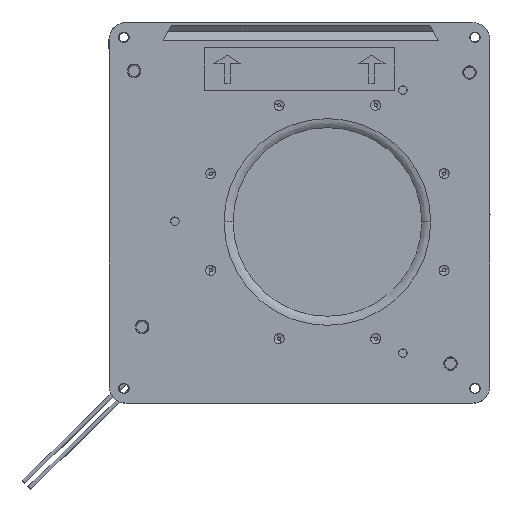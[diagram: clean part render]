
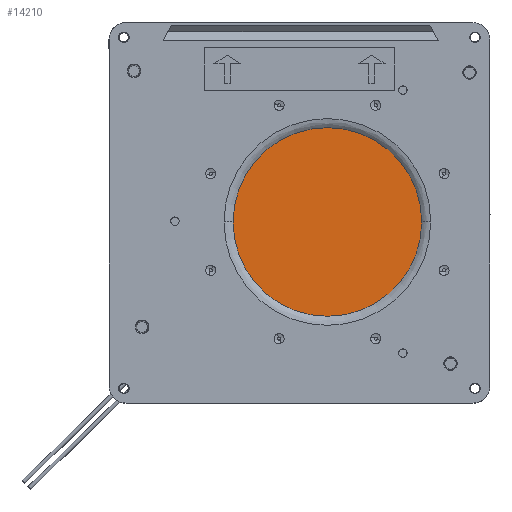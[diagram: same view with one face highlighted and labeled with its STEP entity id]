
A CAD part, top view. The second image highlights one B-rep face of the part: STEP entity #14210.
In plain terms, the highlighted planar face has unit normal (0, 0, 1).
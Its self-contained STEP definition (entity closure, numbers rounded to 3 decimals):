
#6213=CARTESIAN_POINT('',(13.161,-332.658,0.));
#6214=DIRECTION('',(0.,0.,1.));
#6215=DIRECTION('',(-1.,0.,0.));
#6216=AXIS2_PLACEMENT_3D('',#6213,#6214,#6215);
#6230=CARTESIAN_POINT('',(13.161,-332.658,0.));
#6231=DIRECTION('',(0.,0.,1.));
#6232=DIRECTION('',(1.,0.,0.));
#6233=AXIS2_PLACEMENT_3D('',#6230,#6231,#6232);
#7876=CARTESIAN_POINT('',(-31.442,-332.658,0.));
#7877=CARTESIAN_POINT('',(57.764,-332.658,0.));
#7878=VERTEX_POINT('',#7876);
#7879=VERTEX_POINT('',#7877);
#14199=CARTESIAN_POINT('',(-0.039,-328.358,0.));
#14200=DIRECTION('',(0.,0.,1.));
#14201=DIRECTION('',(1.,0.,0.));
#14202=AXIS2_PLACEMENT_3D('',#14199,#14200,#14201);
#14203=PLANE('',#14202);
#14205=ORIENTED_EDGE('',*,*,#14204,.F.);
#14207=ORIENTED_EDGE('',*,*,#14206,.F.);
#14208=EDGE_LOOP('',(#14205,#14207));
#14209=FACE_OUTER_BOUND('',#14208,.F.);
#14210=ADVANCED_FACE('',(#14209),#14203,.T.);
#6217=CIRCLE('',#6216,44.603);
#6234=CIRCLE('',#6233,44.603);
#14204=EDGE_CURVE('',#7878,#7879,#6217,.T.);
#14206=EDGE_CURVE('',#7879,#7878,#6234,.T.);
